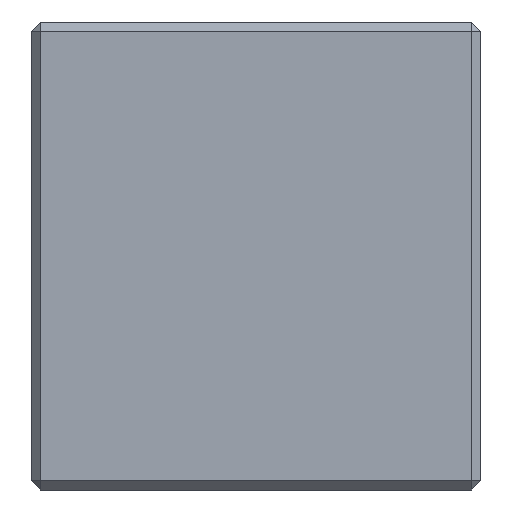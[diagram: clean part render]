
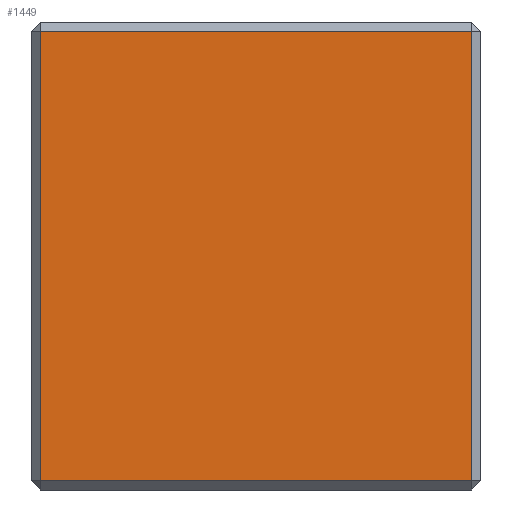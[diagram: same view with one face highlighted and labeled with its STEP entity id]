
A CAD part, left-side view. The second image highlights one B-rep face of the part: STEP entity #1449.
In plain terms, the highlighted planar face has unit normal (-1, 0, 0).
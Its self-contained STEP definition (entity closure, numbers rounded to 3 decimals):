
#120 = EDGE_CURVE ( 'NONE', #1016, #914, #1593, .T. ) ;
#125 = DIRECTION ( 'NONE',  ( 0., 1., 0. ) ) ;
#139 = CARTESIAN_POINT ( 'NONE',  ( -35., -12., -49. ) ) ;
#283 = VECTOR ( 'NONE', #2134, 1000. ) ;
#468 = EDGE_CURVE ( 'NONE', #914, #1938, #599, .T. ) ;
#518 = FACE_OUTER_BOUND ( 'NONE', #2162, .T. ) ;
#555 = LINE ( 'NONE', #2057, #741 ) ;
#599 = LINE ( 'NONE', #1320, #1458 ) ;
#626 = AXIS2_PLACEMENT_3D ( 'NONE', #2043, #1502, #1316 ) ;
#691 = CARTESIAN_POINT ( 'NONE',  ( -35., -23., -1. ) ) ;
#741 = VECTOR ( 'NONE', #1677, 1000. ) ;
#811 = CARTESIAN_POINT ( 'NONE',  ( -35., -23., -49. ) ) ;
#914 = VERTEX_POINT ( 'NONE', #1109 ) ;
#1016 = VERTEX_POINT ( 'NONE', #811 ) ;
#1018 = LINE ( 'NONE', #2369, #283 ) ;
#1109 = CARTESIAN_POINT ( 'NONE',  ( -35., 23., -49. ) ) ;
#1143 = CARTESIAN_POINT ( 'NONE',  ( -35., 23., -1. ) ) ;
#1316 = DIRECTION ( 'NONE',  ( 0., 0., 1. ) ) ;
#1320 = CARTESIAN_POINT ( 'NONE',  ( -35., 23., 0. ) ) ;
#1346 = DIRECTION ( 'NONE',  ( 0., 0., 1. ) ) ;
#1449 = ADVANCED_FACE ( 'NONE', ( #518 ), #1454, .T. ) ;
#1454 = PLANE ( 'NONE',  #626 ) ;
#1455 = EDGE_CURVE ( 'NONE', #1938, #1818, #555, .T. ) ;
#1458 = VECTOR ( 'NONE', #1346, 1000. ) ;
#1501 = ORIENTED_EDGE ( 'NONE', *, *, #120, .F. ) ;
#1502 = DIRECTION ( 'NONE',  ( -1., 0., 0. ) ) ;
#1593 = LINE ( 'NONE', #139, #1947 ) ;
#1677 = DIRECTION ( 'NONE',  ( 0., -1., 0. ) ) ;
#1794 = EDGE_CURVE ( 'NONE', #1818, #1016, #1018, .T. ) ;
#1818 = VERTEX_POINT ( 'NONE', #691 ) ;
#1823 = ORIENTED_EDGE ( 'NONE', *, *, #1455, .F. ) ;
#1938 = VERTEX_POINT ( 'NONE', #1143 ) ;
#1947 = VECTOR ( 'NONE', #125, 1000. ) ;
#1954 = ORIENTED_EDGE ( 'NONE', *, *, #1794, .F. ) ;
#2043 = CARTESIAN_POINT ( 'NONE',  ( -35., -24., 0. ) ) ;
#2057 = CARTESIAN_POINT ( 'NONE',  ( -35., -12., -1. ) ) ;
#2134 = DIRECTION ( 'NONE',  ( 0., 0., -1. ) ) ;
#2162 = EDGE_LOOP ( 'NONE', ( #1823, #2228, #1501, #1954 ) ) ;
#2228 = ORIENTED_EDGE ( 'NONE', *, *, #468, .F. ) ;
#2369 = CARTESIAN_POINT ( 'NONE',  ( -35., -23., 0. ) ) ;
